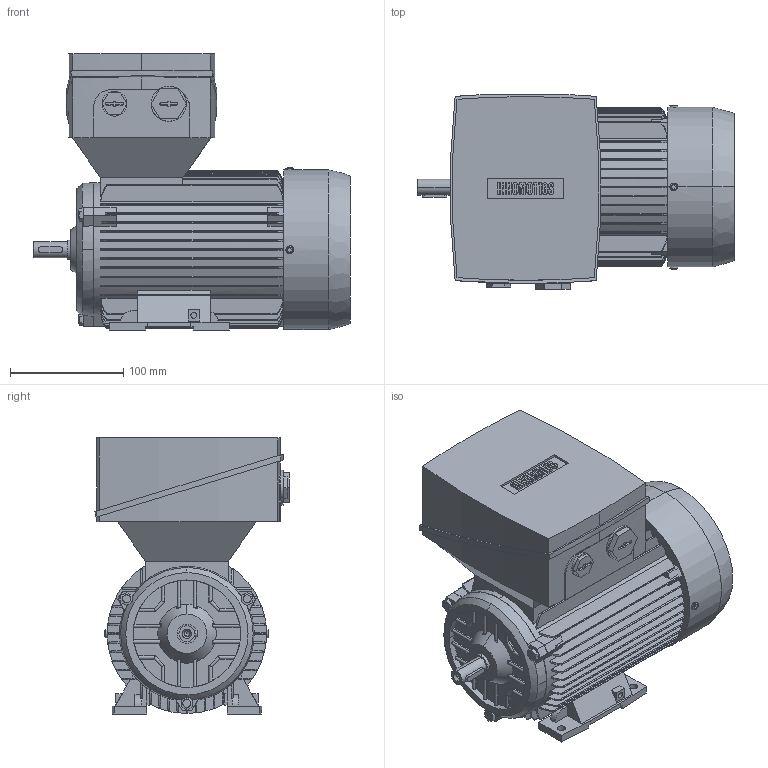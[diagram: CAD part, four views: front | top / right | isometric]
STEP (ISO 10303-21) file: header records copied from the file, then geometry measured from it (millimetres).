
FILE_DESCRIPTION(('STEP AP214'),'1');
FILE_NAME('cctmp_54CF8BC7-F7BC-4C9B-B66D-E114C4602C37_2026_04_16_09_00_42_0135_16860..stp','2026-04-16T07:00:42',('KiM GmbH'),('CADClick - www.CADClick.com'),'Spatial InterOp 3D',' ','unknown authorization');
FILE_SCHEMA(('AUTOMOTIVE_DESIGN'));
Length unit declared in the file: millimetre
Products named in the file (1): 2026_04_16_09_00_42_0134
Bounding box: 280 x 171.96 x 244 mm (x, y, z)
Volume: 5026864.6 mm3; surface area: 372421.3 mm2
Topology: 1 solids, 1 shells, 919 faces, 2558 edges, 1661 vertices
Faces by surface type: plane 587, cylinder 215, torus 92, cone 25
Entity records: 42176 total; most frequent: CARTESIAN_POINT 11835, ORIENTED_EDGE 5040, DIRECTION 4469, EDGE_CURVE 2516, VERTEX_POINT 1661, AXIS2_PLACEMENT_3D 1496, LINE 1477, VECTOR 1477
